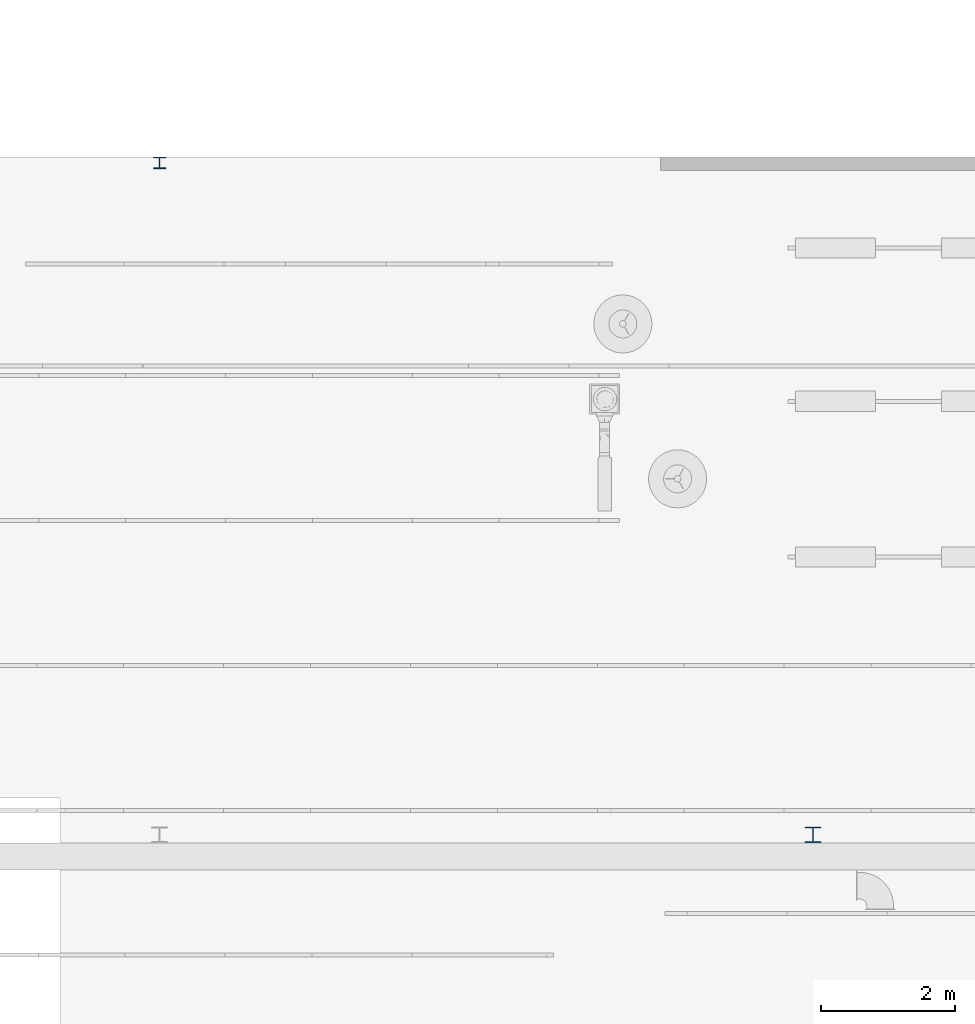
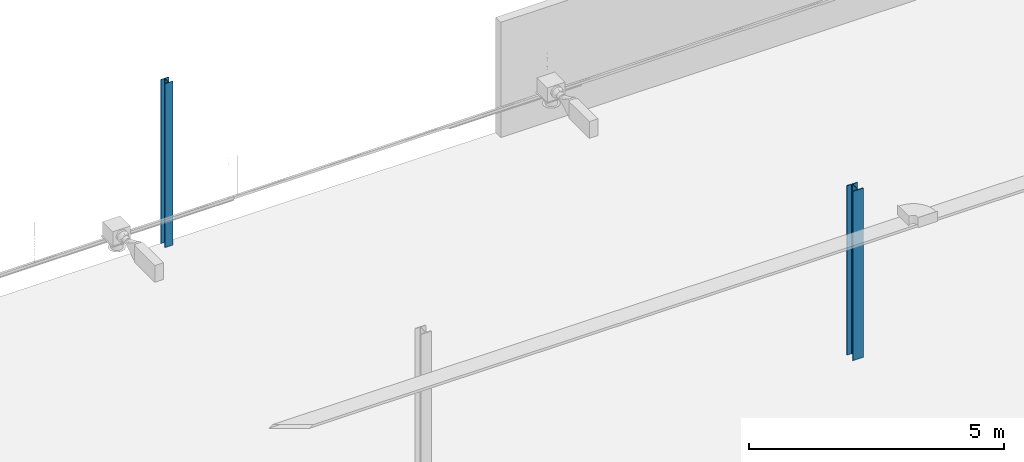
# One storey, part 5 of 290: 2 columns.
"""IFC2X3 building model written with IfcOpenShell, lengths in metres."""

from ifc_helpers import new_model, entity, si_unit, converted_unit, derived_unit, direction, frame, frame_2d, origin, place, context, subcontext, project, spatial, polyline, circle_curve, parameter, trimmed, segment, composite_curve, outline, extrude, source, transform, mapped, material, type_object, type_shapes, element, save


model = new_model("IFC2X3")

# Units and contexts
model_context = context("Model", 3, precision=1e-05, world=origin(), true_north=direction((6.12303176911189e-17, 1.0)))
body_context = subcontext(model_context, "Body", "Model", "MODEL_VIEW")
ifc_project = project(units=[si_unit("LENGTHUNIT", "METRE"), si_unit("AREAUNIT", "SQUARE_METRE"), si_unit("VOLUMEUNIT", "CUBIC_METRE"), converted_unit("PLANEANGLEUNIT", "DEGREE", entity("IfcRatioMeasure", 0.0174532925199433), si_unit("PLANEANGLEUNIT", "RADIAN"), dimensions=[0, 0, 0, 0, 0, 0, 0]), si_unit("MASSUNIT", "GRAM", prefix="KILO"), derived_unit("MASSDENSITYUNIT", [(si_unit("MASSUNIT", "GRAM", prefix="KILO"), 1), (si_unit("LENGTHUNIT", "METRE"), -3)]), derived_unit("MOMENTOFINERTIAUNIT", [(si_unit("LENGTHUNIT", "METRE"), 4)]), si_unit("TIMEUNIT", "SECOND"), si_unit("FREQUENCYUNIT", "HERTZ"), si_unit("THERMODYNAMICTEMPERATUREUNIT", "DEGREE_CELSIUS"), derived_unit("THERMALTRANSMITTANCEUNIT", [(si_unit("MASSUNIT", "GRAM", prefix="KILO"), 1), (si_unit("THERMODYNAMICTEMPERATUREUNIT", "KELVIN"), -1), (si_unit("TIMEUNIT", "SECOND"), -3)]), derived_unit("VOLUMETRICFLOWRATEUNIT", [(si_unit("LENGTHUNIT", "METRE"), 3), (si_unit("TIMEUNIT", "SECOND"), -1)]), si_unit("ELECTRICCURRENTUNIT", "AMPERE"), si_unit("ELECTRICVOLTAGEUNIT", "VOLT"), si_unit("POWERUNIT", "WATT"), si_unit("FORCEUNIT", "NEWTON", prefix="KILO"), si_unit("ILLUMINANCEUNIT", "LUX"), si_unit("LUMINOUSFLUXUNIT", "LUMEN"), si_unit("LUMINOUSINTENSITYUNIT", "CANDELA"), derived_unit("USERDEFINED", [(si_unit("MASSUNIT", "GRAM", prefix="KILO"), -1), (si_unit("LENGTHUNIT", "METRE"), -2), (si_unit("TIMEUNIT", "SECOND"), 3), (si_unit("LUMINOUSFLUXUNIT", "LUMEN"), 1)]), derived_unit("LINEARVELOCITYUNIT", [(si_unit("LENGTHUNIT", "METRE"), 1), (si_unit("TIMEUNIT", "SECOND"), -1)]), si_unit("PRESSUREUNIT", "PASCAL"), derived_unit("USERDEFINED", [(si_unit("LENGTHUNIT", "METRE"), -2), (si_unit("MASSUNIT", "GRAM", prefix="KILO"), 1), (si_unit("TIMEUNIT", "SECOND"), -2)]), derived_unit("LINEARFORCEUNIT", [(si_unit("MASSUNIT", "GRAM", prefix="KILO"), 1), (si_unit("LENGTHUNIT", "METRE"), 1), (si_unit("TIMEUNIT", "SECOND"), -2), (si_unit("LENGTHUNIT", "METRE"), -1)]), derived_unit("PLANARFORCEUNIT", [(si_unit("MASSUNIT", "GRAM", prefix="KILO"), 1), (si_unit("LENGTHUNIT", "METRE"), 1), (si_unit("TIMEUNIT", "SECOND"), -2), (si_unit("LENGTHUNIT", "METRE"), -2)])], contexts=[model_context])

# Site, building, storey
site_placement = place(None, origin())
site = spatial("IfcSite", under=ifc_project, at=site_placement, Name="Default", CompositionType="ELEMENT")
building_placement = place(site_placement, origin())
building = spatial("IfcBuilding", under=site, at=building_placement, CompositionType="ELEMENT")
storey_placement = place(building_placement, frame((0.0, 0.0, 4.0)))
storey = spatial("IfcBuildingStorey", under=building, at=storey_placement, Name="01_OG", CompositionType="ELEMENT", Elevation=4.0)

# Columns
ifc_material = material(Name="Metall - Baustahl S235")
column_type_1 = type_object("IfcColumnType", Name="HEB Stütze:HEB 240", PredefinedType="COLUMN", material=ifc_material)
shared_shape_1 = source(origin(), body_context, "Body", "SweptSolid", [
    extrude(outline(composite_curve([segment(polyline([(0.103000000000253, -0.119999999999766), (0.120000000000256, -0.11999999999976)]), True, "CONTINUOUS"), segment(polyline([(0.120000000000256, -0.119999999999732), (0.119999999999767, 0.120000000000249)]), True, "CONTINUOUS"), segment(polyline([(0.119999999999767, 0.120000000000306), (0.102999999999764, 0.120000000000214)]), True, "CONTINUOUS"), segment(polyline([(0.102999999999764, 0.120000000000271), (0.102999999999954, 0.0268000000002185)]), True, "CONTINUOUS"), segment(trimmed(circle_curve(frame_2d((0.0811999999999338, 0.0268000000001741), x_axis=(1.0, 0.0)), 0.0218000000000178), [parameter(270.000000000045)], [parameter(0.0)], True, "PARAMETER"), False, "CONTINUOUS"), segment(polyline([(0.0811999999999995, 0.00500000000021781), (-0.0811999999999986, 0.00499999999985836)]), True, "CONTINUOUS"), segment(trimmed(circle_curve(frame_2d((-0.0812000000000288, 0.0267999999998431), x_axis=(0.0, -1.0)), 0.0218000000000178), [parameter(270.000000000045)], [parameter(0.0)], True, "PARAMETER"), False, "CONTINUOUS"), segment(polyline([(-0.103000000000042, 0.0267999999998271), (-0.103000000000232, 0.119999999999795)]), True, "CONTINUOUS"), segment(polyline([(-0.103000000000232, 0.119999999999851), (-0.120000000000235, 0.11999999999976)]), True, "CONTINUOUS"), segment(polyline([(-0.120000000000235, 0.119999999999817), (-0.119999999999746, -0.120000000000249)]), True, "CONTINUOUS"), segment(polyline([(-0.119999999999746, -0.120000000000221), (-0.102999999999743, -0.120000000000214)]), True, "CONTINUOUS"), segment(polyline([(-0.102999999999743, -0.120000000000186), (-0.102999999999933, -0.0268000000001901)]), True, "CONTINUOUS"), segment(trimmed(circle_curve(frame_2d((-0.0811999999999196, -0.0268000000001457), x_axis=(-1.0, 0.0)), 0.0218000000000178), [parameter(270.000000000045)], [parameter(0.0)], True, "PARAMETER"), False, "CONTINUOUS"), segment(polyline([(-0.0811999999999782, -0.00500000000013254), (0.0812000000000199, -0.00499999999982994)]), True, "CONTINUOUS"), segment(trimmed(circle_curve(frame_2d((0.081200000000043, -0.0267999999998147), x_axis=(0.0, 1.0)), 0.0218000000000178), [parameter(270.000000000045)], [parameter(0.0)], True, "PARAMETER"), False, "CONTINUOUS"), segment(polyline([(0.103000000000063, -0.0267999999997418), (0.103000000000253, -0.119999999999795)]), True, "CONTINUOUS")], self_intersect=False)), frame((-217.572611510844, 35.408088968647, 4.48), z_axis=(0.0, 0.0, 1.0), x_axis=(0.0, -1.0, 0.0)), (0.0, 0.0, 1.0), 4.057),
])
type_shapes(column_type_1, [shared_shape_1])
column_1_placement = place(storey_placement, frame((0.0, 0.0, -4.0)))
element("IfcColumn", 1, at=column_1_placement, inside=storey, type_object=column_type_1, material=ifc_material, Name="HEB Stütze:HEB 240", ObjectType="HEB Stütze:HEB 240", context=body_context, shape_type="MappedRepresentation", body=[
    mapped(shared_shape_1, transform((0.0, 0.0, 0.0), scale=1.0)),
])
column_type_2 = type_object("IfcColumnType", Name="HEA Stütze:HEA 180", PredefinedType="COLUMN", material=ifc_material)
shared_shape_2 = source(origin(), body_context, "Body", "SweptSolid", [
    extrude(outline(composite_curve([segment(polyline([(0.076, -0.09), (0.0855, -0.09)]), True, "CONTINUOUS"), segment(polyline([(0.0855, -0.09), (0.0855, 0.09)]), True, "CONTINUOUS"), segment(polyline([(0.0855, 0.09), (0.076, 0.09)]), True, "CONTINUOUS"), segment(polyline([(0.076, 0.09), (0.076, 0.018)]), True, "CONTINUOUS"), segment(trimmed(circle_curve(frame_2d((0.061, 0.018), x_axis=(1.0, 0.0)), 0.015), [parameter(269.999999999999)], [parameter(0.0)], True, "PARAMETER"), False, "CONTINUOUS"), segment(polyline([(0.061, 0.003), (-0.061, 0.003)]), True, "CONTINUOUS"), segment(trimmed(circle_curve(frame_2d((-0.061, 0.018), x_axis=(0.0, -1.0)), 0.015), [parameter(270.0)], [parameter(0.0)], True, "PARAMETER"), False, "CONTINUOUS"), segment(polyline([(-0.076, 0.018), (-0.076, 0.09)]), True, "CONTINUOUS"), segment(polyline([(-0.076, 0.09), (-0.0855, 0.09)]), True, "CONTINUOUS"), segment(polyline([(-0.0855, 0.09), (-0.0855, -0.09)]), True, "CONTINUOUS"), segment(polyline([(-0.0855, -0.09), (-0.076, -0.09)]), True, "CONTINUOUS"), segment(polyline([(-0.076, -0.09), (-0.076, -0.018)]), True, "CONTINUOUS"), segment(trimmed(circle_curve(frame_2d((-0.061, -0.018), x_axis=(-1.0, 0.0)), 0.015), [parameter(269.999999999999)], [parameter(0.0)], True, "PARAMETER"), False, "CONTINUOUS"), segment(polyline([(-0.061, -0.00299999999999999), (0.061, -0.00299999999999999)]), True, "CONTINUOUS"), segment(trimmed(circle_curve(frame_2d((0.0610000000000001, -0.018), x_axis=(0.0, 1.0)), 0.0149999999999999), [parameter(269.999999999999)], [parameter(0.0)], True, "PARAMETER"), False, "CONTINUOUS"), segment(polyline([(0.076, -0.018), (0.076, -0.09)]), True, "CONTINUOUS")], self_intersect=False)), frame((0.0, 0.0, 4.48), z_axis=(0.0, 0.0, 1.0), x_axis=(0.0, -1.0, 0.0)), (0.0, 0.0, 1.0), 3.93),
])
type_shapes(column_type_2, [shared_shape_2])
column_2_placement = place(storey_placement, frame((-227.360111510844, 45.472588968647, -4.0)))
element("IfcColumn", 2, at=column_2_placement, inside=storey, type_object=column_type_2, material=ifc_material, Name="HEA Stütze:HEA 180", ObjectType="HEA Stütze:HEA 180", context=body_context, shape_type="MappedRepresentation", body=[
    mapped(shared_shape_2, transform((0.0, 0.0, 0.0), scale=1.0)),
])

save(model, "model.ifc")
